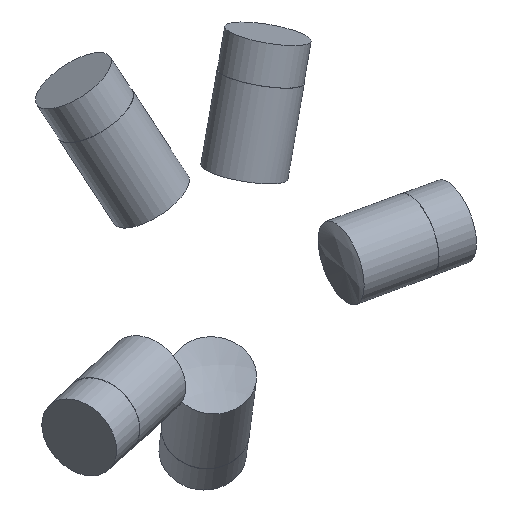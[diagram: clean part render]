
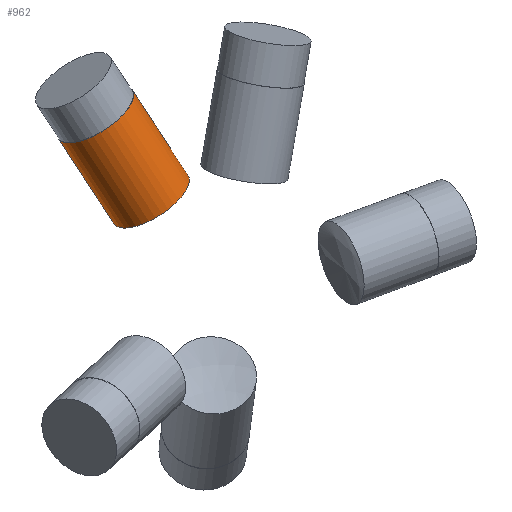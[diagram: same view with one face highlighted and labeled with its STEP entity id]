
A CAD part, isometric view. The second image highlights one B-rep face of the part: STEP entity #962.
In plain terms, the highlighted cylindrical face has radius 6 mm (diameter 12 mm), a full revolution.
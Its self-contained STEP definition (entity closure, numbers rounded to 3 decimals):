
#33 = SPHERICAL_SURFACE('',#34,20.);
#34 = AXIS2_PLACEMENT_3D('',#35,#36,#37);
#35 = CARTESIAN_POINT('',(0.,0.,0.));
#36 = DIRECTION('',(0.,0.,1.));
#37 = DIRECTION('',(1.,0.,-0.));
#627 = EDGE_CURVE('',#628,#628,#630,.T.);
#628 = VERTEX_POINT('',#629);
#629 = CARTESIAN_POINT('',(-5.23,13.617,
    13.683));
#630 = SURFACE_CURVE('',#631,(#636,#726),.PCURVE_S1.);
#631 = CIRCLE('',#632,6.);
#632 = AXIS2_PLACEMENT_3D('',#633,#634,#635);
#633 = CARTESIAN_POINT('',(-5.23,8.259,
    16.384));
#634 = DIRECTION('',(-0.274,0.433,0.859));
#635 = DIRECTION('',(0.,-0.893,0.45)
  );
#636 = PCURVE('',#33,#637);
#637 = DEFINITIONAL_REPRESENTATION('',(#638),#725);
#638 = B_SPLINE_CURVE_WITH_KNOTS('',8,(#639,#640,#641,#642,#643,#644,
    #645,#646,#647,#648,#649,#650,#651,#652,#653,#654,#655,#656,#657,
    #658,#659,#660,#661,#662,#663,#664,#665,#666,#667,#668,#669,#670,
    #671,#672,#673,#674,#675,#676,#677,#678,#679,#680,#681,#682,#683,
    #684,#685,#686,#687,#688,#689,#690,#691,#692,#693,#694,#695,#696,
    #697,#698,#699,#700,#701,#702,#703,#704,#705,#706,#707,#708,#709,
    #710,#711,#712,#713,#714,#715,#716,#717,#718,#719,#720,#721,#722,
    #723,#724),.UNSPECIFIED.,.T.,.F.,(9,7,7,7,7,7,7,7,7,7,7,7,9),(
    3.142,3.927,4.614,5.216,
    5.742,6.202,6.605,6.781,
    7.112,7.401,7.907,8.666,
    9.425),.UNSPECIFIED.);
#639 = CARTESIAN_POINT('',(1.938,0.753));
#640 = CARTESIAN_POINT('',(1.976,0.744));
#641 = CARTESIAN_POINT('',(2.014,0.736));
#642 = CARTESIAN_POINT('',(2.053,0.73));
#643 = CARTESIAN_POINT('',(2.093,0.727));
#644 = CARTESIAN_POINT('',(2.132,0.726));
#645 = CARTESIAN_POINT('',(2.172,0.727));
#646 = CARTESIAN_POINT('',(2.211,0.731));
#647 = CARTESIAN_POINT('',(2.284,0.742));
#648 = CARTESIAN_POINT('',(2.318,0.748));
#649 = CARTESIAN_POINT('',(2.352,0.757));
#650 = CARTESIAN_POINT('',(2.385,0.767));
#651 = CARTESIAN_POINT('',(2.417,0.779));
#652 = CARTESIAN_POINT('',(2.449,0.792));
#653 = CARTESIAN_POINT('',(2.479,0.806));
#654 = CARTESIAN_POINT('',(2.535,0.837));
#655 = CARTESIAN_POINT('',(2.56,0.852));
#656 = CARTESIAN_POINT('',(2.584,0.868));
#657 = CARTESIAN_POINT('',(2.607,0.885));
#658 = CARTESIAN_POINT('',(2.629,0.903));
#659 = CARTESIAN_POINT('',(2.65,0.922));
#660 = CARTESIAN_POINT('',(2.669,0.941));
#661 = CARTESIAN_POINT('',(2.702,0.979));
#662 = CARTESIAN_POINT('',(2.716,0.997));
#663 = CARTESIAN_POINT('',(2.729,1.016));
#664 = CARTESIAN_POINT('',(2.74,1.035));
#665 = CARTESIAN_POINT('',(2.749,1.054));
#666 = CARTESIAN_POINT('',(2.755,1.074));
#667 = CARTESIAN_POINT('',(2.76,1.093));
#668 = CARTESIAN_POINT('',(2.761,1.13));
#669 = CARTESIAN_POINT('',(2.76,1.148));
#670 = CARTESIAN_POINT('',(2.756,1.165));
#671 = CARTESIAN_POINT('',(2.748,1.182));
#672 = CARTESIAN_POINT('',(2.738,1.199));
#673 = CARTESIAN_POINT('',(2.722,1.215));
#674 = CARTESIAN_POINT('',(2.702,1.231));
#675 = CARTESIAN_POINT('',(2.654,1.26));
#676 = CARTESIAN_POINT('',(2.627,1.272));
#677 = CARTESIAN_POINT('',(2.596,1.284));
#678 = CARTESIAN_POINT('',(2.559,1.296));
#679 = CARTESIAN_POINT('',(2.516,1.306));
#680 = CARTESIAN_POINT('',(2.468,1.314));
#681 = CARTESIAN_POINT('',(2.414,1.322));
#682 = CARTESIAN_POINT('',(2.33,1.33));
#683 = CARTESIAN_POINT('',(2.304,1.332));
#684 = CARTESIAN_POINT('',(2.277,1.334));
#685 = CARTESIAN_POINT('',(2.249,1.335));
#686 = CARTESIAN_POINT('',(2.221,1.336));
#687 = CARTESIAN_POINT('',(2.193,1.337));
#688 = CARTESIAN_POINT('',(2.164,1.338));
#689 = CARTESIAN_POINT('',(2.082,1.338));
#690 = CARTESIAN_POINT('',(2.028,1.336));
#691 = CARTESIAN_POINT('',(1.976,1.334));
#692 = CARTESIAN_POINT('',(1.925,1.33));
#693 = CARTESIAN_POINT('',(1.878,1.325));
#694 = CARTESIAN_POINT('',(1.834,1.319));
#695 = CARTESIAN_POINT('',(1.794,1.312));
#696 = CARTESIAN_POINT('',(1.725,1.297));
#697 = CARTESIAN_POINT('',(1.696,1.29));
#698 = CARTESIAN_POINT('',(1.67,1.282));
#699 = CARTESIAN_POINT('',(1.647,1.273));
#700 = CARTESIAN_POINT('',(1.626,1.264));
#701 = CARTESIAN_POINT('',(1.607,1.255));
#702 = CARTESIAN_POINT('',(1.591,1.245));
#703 = CARTESIAN_POINT('',(1.553,1.218));
#704 = CARTESIAN_POINT('',(1.534,1.201));
#705 = CARTESIAN_POINT('',(1.522,1.182));
#706 = CARTESIAN_POINT('',(1.513,1.163));
#707 = CARTESIAN_POINT('',(1.509,1.144));
#708 = CARTESIAN_POINT('',(1.508,1.125));
#709 = CARTESIAN_POINT('',(1.509,1.106));
#710 = CARTESIAN_POINT('',(1.52,1.059));
#711 = CARTESIAN_POINT('',(1.531,1.031));
#712 = CARTESIAN_POINT('',(1.548,1.004));
#713 = CARTESIAN_POINT('',(1.567,0.977));
#714 = CARTESIAN_POINT('',(1.589,0.951));
#715 = CARTESIAN_POINT('',(1.614,0.927));
#716 = CARTESIAN_POINT('',(1.641,0.903));
#717 = CARTESIAN_POINT('',(1.699,0.86));
#718 = CARTESIAN_POINT('',(1.729,0.839));
#719 = CARTESIAN_POINT('',(1.761,0.821));
#720 = CARTESIAN_POINT('',(1.795,0.803));
#721 = CARTESIAN_POINT('',(1.829,0.788));
#722 = CARTESIAN_POINT('',(1.865,0.775));
#723 = CARTESIAN_POINT('',(1.901,0.763));
#724 = CARTESIAN_POINT('',(1.938,0.753));
#725 = ( GEOMETRIC_REPRESENTATION_CONTEXT(2) 
PARAMETRIC_REPRESENTATION_CONTEXT() REPRESENTATION_CONTEXT('2D SPACE',''
  ) );
#726 = PCURVE('',#727,#732);
#727 = CYLINDRICAL_SURFACE('',#728,6.);
#728 = AXIS2_PLACEMENT_3D('',#729,#730,#731);
#729 = CARTESIAN_POINT('',(0.,0.,0.));
#730 = DIRECTION('',(-0.274,0.433,0.859));
#731 = DIRECTION('',(0.,0.893,-0.45)
  );
#732 = DEFINITIONAL_REPRESENTATION('',(#733),#737);
#733 = LINE('',#734,#735);
#734 = CARTESIAN_POINT('',(-3.142,19.079));
#735 = VECTOR('',#736,1.);
#736 = DIRECTION('',(1.,0.));
#737 = ( GEOMETRIC_REPRESENTATION_CONTEXT(2) 
PARAMETRIC_REPRESENTATION_CONTEXT() REPRESENTATION_CONTEXT('2D SPACE',''
  ) );
#962 = ADVANCED_FACE('',(#963),#727,.T.);
#963 = FACE_BOUND('',#964,.T.);
#964 = EDGE_LOOP('',(#965,#988,#1015,#1016));
#965 = ORIENTED_EDGE('',*,*,#966,.T.);
#966 = EDGE_CURVE('',#628,#967,#969,.T.);
#967 = VERTEX_POINT('',#968);
#968 = CARTESIAN_POINT('',(-9.37,20.155,
    26.653));
#969 = SEAM_CURVE('',#970,(#974,#981),.PCURVE_S1.);
#970 = LINE('',#971,#972);
#971 = CARTESIAN_POINT('',(0.,5.358,
    -2.701));
#972 = VECTOR('',#973,1.);
#973 = DIRECTION('',(-0.274,0.433,0.859));
#974 = PCURVE('',#727,#975);
#975 = DEFINITIONAL_REPRESENTATION('',(#976),#980);
#976 = LINE('',#977,#978);
#977 = CARTESIAN_POINT('',(6.283,-0.));
#978 = VECTOR('',#979,1.);
#979 = DIRECTION('',(0.,1.));
#980 = ( GEOMETRIC_REPRESENTATION_CONTEXT(2) 
PARAMETRIC_REPRESENTATION_CONTEXT() REPRESENTATION_CONTEXT('2D SPACE',''
  ) );
#981 = PCURVE('',#727,#982);
#982 = DEFINITIONAL_REPRESENTATION('',(#983),#987);
#983 = LINE('',#984,#985);
#984 = CARTESIAN_POINT('',(0.,-0.));
#985 = VECTOR('',#986,1.);
#986 = DIRECTION('',(0.,1.));
#987 = ( GEOMETRIC_REPRESENTATION_CONTEXT(2) 
PARAMETRIC_REPRESENTATION_CONTEXT() REPRESENTATION_CONTEXT('2D SPACE',''
  ) );
#988 = ORIENTED_EDGE('',*,*,#989,.F.);
#989 = EDGE_CURVE('',#967,#967,#990,.T.);
#990 = SURFACE_CURVE('',#991,(#996,#1003),.PCURVE_S1.);
#991 = CIRCLE('',#992,6.);
#992 = AXIS2_PLACEMENT_3D('',#993,#994,#995);
#993 = CARTESIAN_POINT('',(-9.37,14.797,
    29.354));
#994 = DIRECTION('',(-0.274,0.433,0.859));
#995 = DIRECTION('',(0.,0.893,-0.45)
  );
#996 = PCURVE('',#727,#997);
#997 = DEFINITIONAL_REPRESENTATION('',(#998),#1002);
#998 = LINE('',#999,#1000);
#999 = CARTESIAN_POINT('',(0.,34.182));
#1000 = VECTOR('',#1001,1.);
#1001 = DIRECTION('',(1.,0.));
#1002 = ( GEOMETRIC_REPRESENTATION_CONTEXT(2) 
PARAMETRIC_REPRESENTATION_CONTEXT() REPRESENTATION_CONTEXT('2D SPACE',''
  ) );
#1003 = PCURVE('',#1004,#1009);
#1004 = PLANE('',#1005);
#1005 = AXIS2_PLACEMENT_3D('',#1006,#1007,#1008);
#1006 = CARTESIAN_POINT('',(-9.37,14.797,
    29.354));
#1007 = DIRECTION('',(-0.274,0.433,0.859));
#1008 = DIRECTION('',(0.,0.893,-0.45
    ));
#1009 = DEFINITIONAL_REPRESENTATION('',(#1010),#1014);
#1010 = CIRCLE('',#1011,6.);
#1011 = AXIS2_PLACEMENT_2D('',#1012,#1013);
#1012 = CARTESIAN_POINT('',(0.,0.));
#1013 = DIRECTION('',(1.,0.));
#1014 = ( GEOMETRIC_REPRESENTATION_CONTEXT(2) 
PARAMETRIC_REPRESENTATION_CONTEXT() REPRESENTATION_CONTEXT('2D SPACE',''
  ) );
#1015 = ORIENTED_EDGE('',*,*,#966,.F.);
#1016 = ORIENTED_EDGE('',*,*,#627,.T.);
